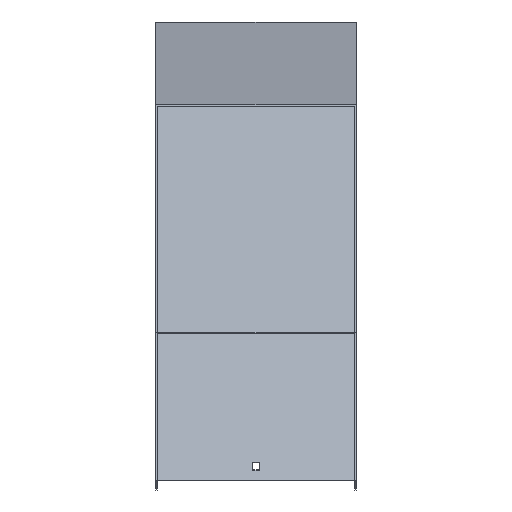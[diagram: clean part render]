
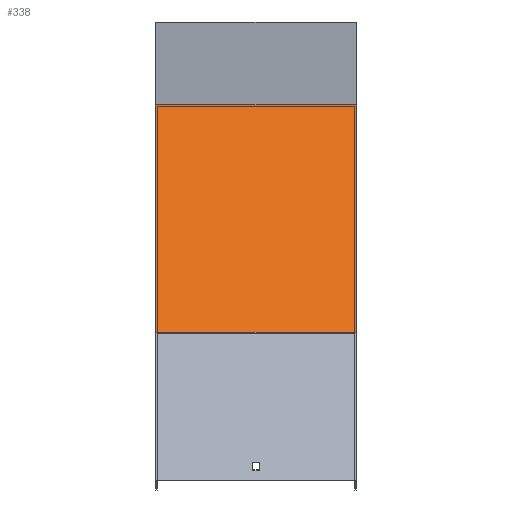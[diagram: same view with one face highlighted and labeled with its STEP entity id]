
A CAD part, top view. The second image highlights one B-rep face of the part: STEP entity #338.
In plain terms, the highlighted planar face has unit normal (0, 0.707, 0.707).
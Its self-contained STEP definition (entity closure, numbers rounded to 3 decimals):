
#15 = ORIENTED_EDGE ( 'NONE', *, *, #474, .F. ) ;
#21 = VERTEX_POINT ( 'NONE', #309 ) ;
#80 = VERTEX_POINT ( 'NONE', #271 ) ;
#102 = VECTOR ( 'NONE', #847, 1000. ) ;
#148 = LINE ( 'NONE', #767, #526 ) ;
#182 = ORIENTED_EDGE ( 'NONE', *, *, #457, .T. ) ;
#186 = CARTESIAN_POINT ( 'NONE',  ( 101.5, -295.85, 719.701 ) ) ;
#187 = CARTESIAN_POINT ( 'NONE',  ( 101.5, -68.421, 492.272 ) ) ;
#234 = LINE ( 'NONE', #548, #102 ) ;
#241 = CARTESIAN_POINT ( 'NONE',  ( -101.5, -68.421, 492.272 ) ) ;
#271 = CARTESIAN_POINT ( 'NONE',  ( 101.5, -64.632, 488.483 ) ) ;
#280 = DIRECTION ( 'NONE',  ( 0., 0.707, -0.707 ) ) ;
#309 = CARTESIAN_POINT ( 'NONE',  ( 101.5, -295.85, 719.701 ) ) ;
#338 = ADVANCED_FACE ( 'NONE', ( #818 ), #356, .F. ) ;
#356 = PLANE ( 'NONE',  #903 ) ;
#457 = EDGE_CURVE ( 'NONE', #80, #787, #148, .T. ) ;
#474 = EDGE_CURVE ( 'NONE', #80, #21, #234, .T. ) ;
#508 = DIRECTION ( 'NONE',  ( -1., 0., 0. ) ) ;
#510 = EDGE_CURVE ( 'NONE', #787, #586, #853, .T. ) ;
#526 = VECTOR ( 'NONE', #761, 1000. ) ;
#548 = CARTESIAN_POINT ( 'NONE',  ( 101.5, -68.421, 492.272 ) ) ;
#554 = DIRECTION ( 'NONE',  ( 0., -0.707, 0.707 ) ) ;
#586 = VERTEX_POINT ( 'NONE', #930 ) ;
#634 = ORIENTED_EDGE ( 'NONE', *, *, #662, .F. ) ;
#662 = EDGE_CURVE ( 'NONE', #21, #586, #878, .T. ) ;
#706 = VECTOR ( 'NONE', #554, 1000. ) ;
#749 = VECTOR ( 'NONE', #508, 1000. ) ;
#761 = DIRECTION ( 'NONE',  ( -1., 0., 0. ) ) ;
#767 = CARTESIAN_POINT ( 'NONE',  ( 101.5, -64.632, 488.483 ) ) ;
#787 = VERTEX_POINT ( 'NONE', #834 ) ;
#818 = FACE_OUTER_BOUND ( 'NONE', #931, .T. ) ;
#834 = CARTESIAN_POINT ( 'NONE',  ( -101.5, -64.632, 488.483 ) ) ;
#847 = DIRECTION ( 'NONE',  ( 0., -0.707, 0.707 ) ) ;
#853 = LINE ( 'NONE', #241, #706 ) ;
#863 = ORIENTED_EDGE ( 'NONE', *, *, #510, .T. ) ;
#878 = LINE ( 'NONE', #186, #749 ) ;
#903 = AXIS2_PLACEMENT_3D ( 'NONE', #187, #959, #280 ) ;
#930 = CARTESIAN_POINT ( 'NONE',  ( -101.5, -295.85, 719.701 ) ) ;
#931 = EDGE_LOOP ( 'NONE', ( #863, #634, #15, #182 ) ) ;
#959 = DIRECTION ( 'NONE',  ( 0., -0.707, -0.707 ) ) ;
